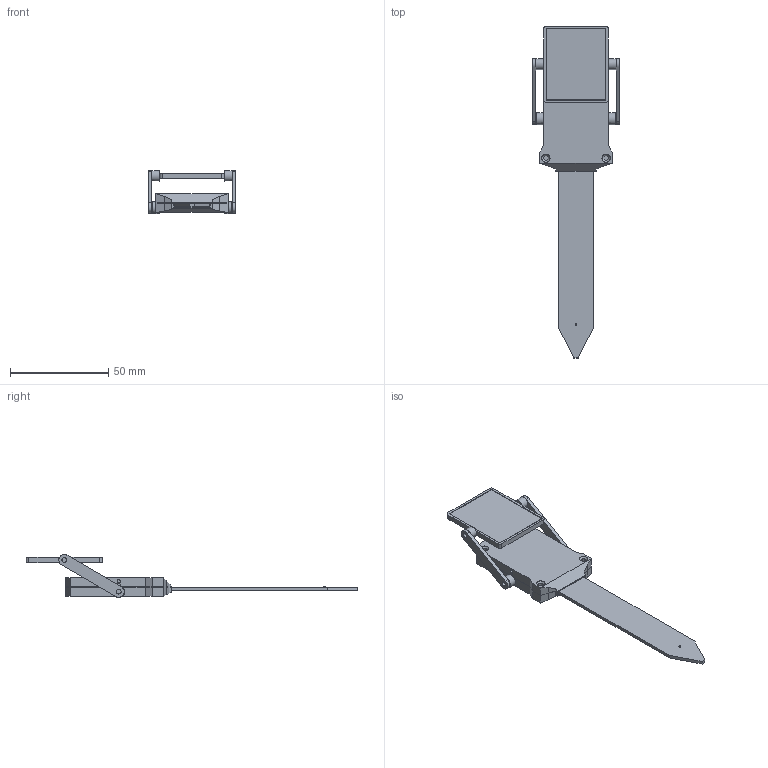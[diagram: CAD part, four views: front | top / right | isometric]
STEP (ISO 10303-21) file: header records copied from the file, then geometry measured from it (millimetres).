
FILE_DESCRIPTION(('Open CASCADE Model'),'2;1');
FILE_NAME('Open CASCADE Shape Model','2026-09-30T23:04:27',('Author'),( 'Open CASCADE'),'Open CASCADE STEP processor 8.0','Open CASCADE 8.0' ,'Unknown');
FILE_SCHEMA(('AP242_MANAGED_MODEL_BASED_3D_ENGINEERING_MIM_LF {1 0 10303 442 1 1 4 }' ));
Length unit declared in the file: millimetre
Products named in the file (9): MSV4 Arm Solar Base; MSV4 Arm Solar Lid; MSV4 Case Gasket; MSV4 Solar Arm Left; MSV4 Solar Arm Right; MSV4 36 x 30 Solar Panel Frame; MSV4 PCB - Corrected 1.6 mm Reference; 10 x 20 x 2 mm Top-Side Battery Placement Reference; 36 x 30 mm Solar Panel Reference
Bounding box: 44 x 168.6 x 21.9 mm (x, y, z)
Volume: 17080.2 mm3; surface area: 26830.9 mm2
Topology: 241 solids, 241 shells, 3549 faces, 8914 edges, 5894 vertices
Faces by surface type: plane 2562, cylinder 495, bspline 368, extrusion 92, sphere 24, cone 4, torus 4
Full cylindrical faces by diameter (mm): 0.137 x2, 0.222 x2, 0.268 x2, 1.6 x4, 2.4 x12, 2.9 x8, 3.3 x4, 4.2 x4, 5.4 x2, 6 x2
Entity records: 231710 total; most frequent: CARTESIAN_POINT 54959, DIRECTION 30233, VECTOR 21328, LINE 21236, ORIENTED_EDGE 17828, PCURVE 17828, DEFINITIONAL_REPRESENTATION 17828, EDGE_CURVE 8914
